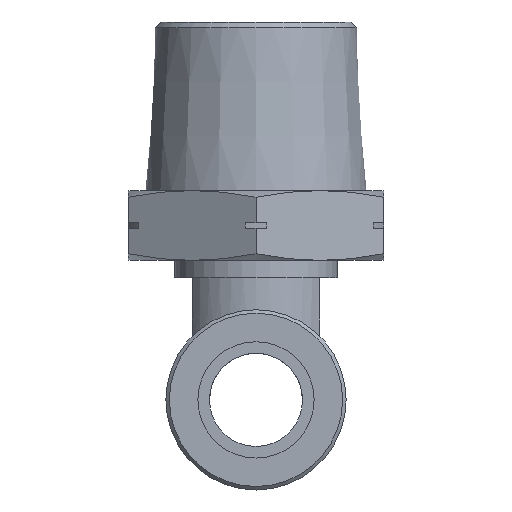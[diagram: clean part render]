
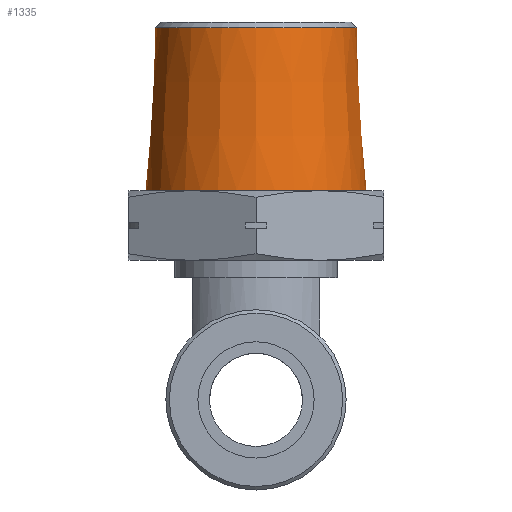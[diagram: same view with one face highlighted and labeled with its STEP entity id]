
A CAD part, front view. The second image highlights one B-rep face of the part: STEP entity #1335.
In plain terms, the highlighted conical face has half-angle 3.5 degrees and reference radius 9.057 mm.
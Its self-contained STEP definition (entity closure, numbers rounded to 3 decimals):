
#32=CONICAL_SURFACE('',#1462,9.057,0.061);
#126=FACE_OUTER_BOUND('',#212,.T.);
#212=EDGE_LOOP('',(#962,#963,#964,#965,#966));
#305=CIRCLE('',#1460,8.644);
#306=CIRCLE('',#1461,8.644);
#307=CIRCLE('',#1463,9.5);
#412=LINE('',#2168,#504);
#504=VECTOR('',#1716,9.057);
#600=VERTEX_POINT('',#2161);
#601=VERTEX_POINT('',#2163);
#602=VERTEX_POINT('',#2167);
#741=EDGE_CURVE('',#600,#601,#305,.T.);
#742=EDGE_CURVE('',#601,#600,#306,.T.);
#743=EDGE_CURVE('',#601,#602,#412,.T.);
#744=EDGE_CURVE('',#602,#602,#307,.T.);
#962=ORIENTED_EDGE('',*,*,#741,.F.);
#963=ORIENTED_EDGE('',*,*,#742,.F.);
#964=ORIENTED_EDGE('',*,*,#743,.T.);
#965=ORIENTED_EDGE('',*,*,#744,.F.);
#966=ORIENTED_EDGE('',*,*,#743,.F.);
#1335=ADVANCED_FACE('',(#126),#32,.T.);
#1460=AXIS2_PLACEMENT_3D('',#2164,#1710,#1711);
#1461=AXIS2_PLACEMENT_3D('',#2165,#1712,#1713);
#1462=AXIS2_PLACEMENT_3D('',#2166,#1714,#1715);
#1463=AXIS2_PLACEMENT_3D('',#2169,#1717,#1718);
#1710=DIRECTION('center_axis',(0.,0.,1.));
#1711=DIRECTION('ref_axis',(0.,-1.,0.));
#1712=DIRECTION('center_axis',(0.,0.,1.));
#1713=DIRECTION('ref_axis',(0.,-1.,0.));
#1714=DIRECTION('center_axis',(0.,0.,-1.));
#1715=DIRECTION('ref_axis',(0.,1.,0.));
#1716=DIRECTION('',(0.,-0.061,-0.998));
#1717=DIRECTION('center_axis',(0.,0.,-1.));
#1718=DIRECTION('ref_axis',(0.,1.,0.));
#2161=CARTESIAN_POINT('',(0.,8.644,32.001));
#2163=CARTESIAN_POINT('',(0.,-8.644,32.001));
#2164=CARTESIAN_POINT('Origin',(0.,0.,32.001));
#2165=CARTESIAN_POINT('Origin',(0.,0.,32.001));
#2166=CARTESIAN_POINT('Origin',(0.,0.,25.25));
#2167=CARTESIAN_POINT('',(0.,-9.5,18.));
#2168=CARTESIAN_POINT('',(0.,-9.057,25.25));
#2169=CARTESIAN_POINT('Origin',(0.,0.,18.));
